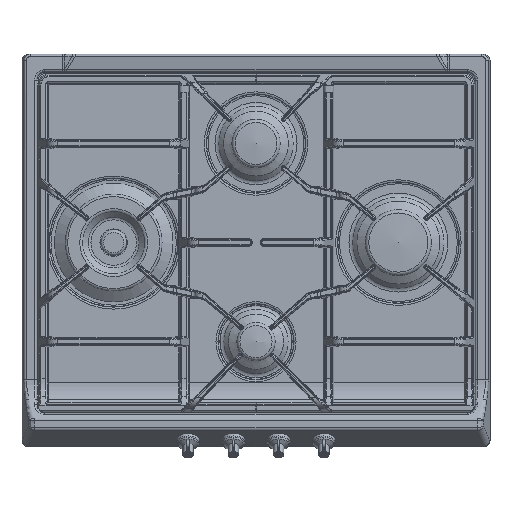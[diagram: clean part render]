
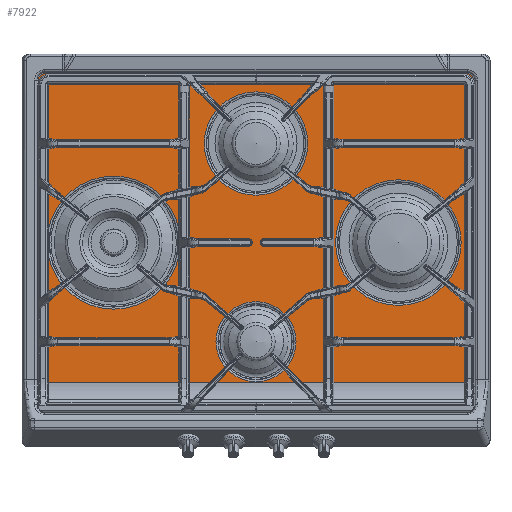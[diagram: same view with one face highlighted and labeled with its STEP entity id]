
A CAD part, top view. The second image highlights one B-rep face of the part: STEP entity #7922.
In plain terms, the highlighted planar face has unit normal (0, 0, 1).
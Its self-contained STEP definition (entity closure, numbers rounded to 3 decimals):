
#2403=ELLIPSE('',#32605,8.282,8.);
#2404=ELLIPSE('',#32606,8.282,8.);
#3090=LINE('',#42502,#4950);
#3091=LINE('',#42504,#4951);
#3092=LINE('',#42506,#4952);
#3093=LINE('',#42510,#4953);
#4950=VECTOR('',#35335,1.);
#4951=VECTOR('',#35336,1.);
#4952=VECTOR('',#35337,1.);
#4953=VECTOR('',#35340,1.);
#7688=FACE_BOUND('',#12512,.T.);
#7689=FACE_BOUND('',#12513,.T.);
#7690=FACE_BOUND('',#12514,.T.);
#7691=FACE_BOUND('',#12515,.T.);
#7692=FACE_BOUND('',#12516,.T.);
#7922=ADVANCED_FACE('',(#7688,#7689,#7690,#7691,#7692),#9939,.F.);
#9939=PLANE('',#32607);
#12512=EDGE_LOOP('',(#14712));
#12513=EDGE_LOOP('',(#14713));
#12514=EDGE_LOOP('',(#14714));
#12515=EDGE_LOOP('',(#14715));
#12516=EDGE_LOOP('',(#14716,#14717,#14718,#14719,#14720,#14721));
#14712=ORIENTED_EDGE('',*,*,#27166,.T.);
#14713=ORIENTED_EDGE('',*,*,#27167,.T.);
#14714=ORIENTED_EDGE('',*,*,#27168,.T.);
#14715=ORIENTED_EDGE('',*,*,#27169,.T.);
#14716=ORIENTED_EDGE('',*,*,#27170,.T.);
#14717=ORIENTED_EDGE('',*,*,#27171,.T.);
#14718=ORIENTED_EDGE('',*,*,#27172,.T.);
#14719=ORIENTED_EDGE('',*,*,#27173,.T.);
#14720=ORIENTED_EDGE('',*,*,#27174,.T.);
#14721=ORIENTED_EDGE('',*,*,#27175,.T.);
#24255=VERTEX_POINT('',#42492);
#24256=VERTEX_POINT('',#42494);
#24257=VERTEX_POINT('',#42496);
#24258=VERTEX_POINT('',#42498);
#24259=VERTEX_POINT('',#42500);
#24260=VERTEX_POINT('',#42501);
#24261=VERTEX_POINT('',#42503);
#24262=VERTEX_POINT('',#42505);
#24263=VERTEX_POINT('',#42507);
#24264=VERTEX_POINT('',#42509);
#27166=EDGE_CURVE('',#24255,#24255,#31913,.T.);
#27167=EDGE_CURVE('',#24256,#24256,#31914,.T.);
#27168=EDGE_CURVE('',#24257,#24257,#31915,.T.);
#27169=EDGE_CURVE('',#24258,#24258,#31916,.T.);
#27170=EDGE_CURVE('',#24259,#24260,#2403,.T.);
#27171=EDGE_CURVE('',#24260,#24261,#3090,.T.);
#27172=EDGE_CURVE('',#24261,#24262,#3091,.T.);
#27173=EDGE_CURVE('',#24262,#24263,#3092,.T.);
#27174=EDGE_CURVE('',#24263,#24264,#2404,.T.);
#27175=EDGE_CURVE('',#24264,#24259,#3093,.T.);
#31913=CIRCLE('',#32601,85.286);
#31914=CIRCLE('',#32602,80.536);
#31915=CIRCLE('',#32603,66.286);
#31916=CIRCLE('',#32604,51.286);
#32601=AXIS2_PLACEMENT_3D('',#42491,#35325,#35326);
#32602=AXIS2_PLACEMENT_3D('',#42493,#35327,#35328);
#32603=AXIS2_PLACEMENT_3D('',#42495,#35329,#35330);
#32604=AXIS2_PLACEMENT_3D('',#42497,#35331,#35332);
#32605=AXIS2_PLACEMENT_3D('',#42499,#35333,#35334);
#32606=AXIS2_PLACEMENT_3D('',#42508,#35338,#35339);
#32607=AXIS2_PLACEMENT_3D('',#42511,#35341,#35342);
#35325=DIRECTION('',(0.,0.,-1.));
#35326=DIRECTION('',(-1.,0.,0.));
#35327=DIRECTION('',(0.,0.,-1.));
#35328=DIRECTION('',(-1.,0.,0.));
#35329=DIRECTION('',(0.,0.,-1.));
#35330=DIRECTION('',(-1.,0.,0.));
#35331=DIRECTION('',(0.,0.,-1.));
#35332=DIRECTION('',(-1.,0.,0.));
#35333=DIRECTION('',(0.,0.,1.));
#35334=DIRECTION('',(0.,-1.,0.));
#35335=DIRECTION('',(0.,-1.,0.));
#35336=DIRECTION('',(1.,0.,0.));
#35337=DIRECTION('',(0.,1.,0.));
#35338=DIRECTION('',(0.,0.,1.));
#35339=DIRECTION('',(0.,-1.,0.));
#35340=DIRECTION('',(-1.,0.,0.));
#35341=DIRECTION('',(0.,0.,-1.));
#35342=DIRECTION('',(-1.,0.,0.));
#42491=CARTESIAN_POINT('',(98.5,262.,13.));
#42492=CARTESIAN_POINT('',(13.214,262.,13.));
#42493=CARTESIAN_POINT('',(463.5,262.,13.));
#42494=CARTESIAN_POINT('',(382.964,262.,13.));
#42495=CARTESIAN_POINT('',(281.,389.,13.));
#42496=CARTESIAN_POINT('',(214.714,389.,13.));
#42497=CARTESIAN_POINT('',(281.,135.,13.));
#42498=CARTESIAN_POINT('',(229.714,135.,13.));
#42499=CARTESIAN_POINT('',(10.,470.183,13.));
#42500=CARTESIAN_POINT('',(10.,478.465,13.));
#42501=CARTESIAN_POINT('',(2.,470.183,13.));
#42502=CARTESIAN_POINT('',(2.,480.,13.));
#42503=CARTESIAN_POINT('',(2.,82.967,13.));
#42504=CARTESIAN_POINT('',(0.,82.967,13.));
#42505=CARTESIAN_POINT('',(560.,82.967,13.));
#42506=CARTESIAN_POINT('',(560.,480.,13.));
#42507=CARTESIAN_POINT('',(560.,470.183,13.));
#42508=CARTESIAN_POINT('',(552.,470.183,13.));
#42509=CARTESIAN_POINT('',(552.,478.465,13.));
#42510=CARTESIAN_POINT('',(0.,478.465,13.));
#42511=CARTESIAN_POINT('',(0.,480.,13.));
